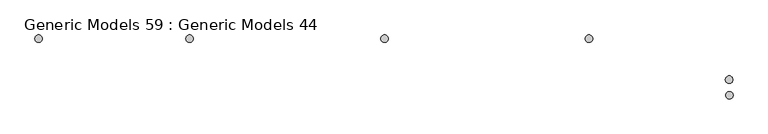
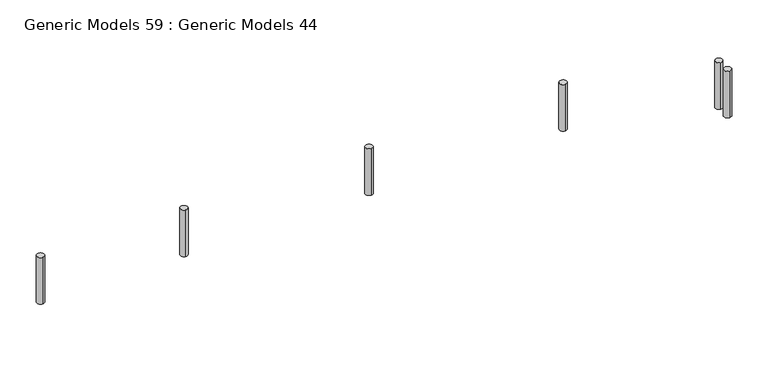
"""IFC4 building model written with IfcOpenShell, lengths in millimetres: proxy geometry, Generic Models 59 : Generic Models 44."""

from ifc_helpers import new_model, si_unit, point, frame, frame_2d, origin, place, context, project, spatial, circle_curve, trimmed, segment, composite_curve, outline, extrude, source, transform, mapped, element, save


def generic_models_59_generic_models_44_6771ed51(model_context):
    return source(origin(), model_context, "Body", "SweptSolid", [
        extrude(outline(composite_curve([segment(trimmed(circle_curve(frame_2d((-42808.6557962, 11742.069733)), 120.0), [point((-42808.6557962, 11862.069733))], [point((-42808.6557962, 11622.069733))], False, "CARTESIAN"), True, "CONTINUOUS"), segment(trimmed(circle_curve(frame_2d((-42808.6557962, 11742.069733)), 120.0), [point((-42808.6557962, 11622.069733))], [point((-42808.6557962, 11862.069733))], False, "CARTESIAN"), True, "CONTINUOUS")], self_intersect=False)), frame((0.0, 0.0, 42695.9057084), z_axis=(0.0, 0.0, 1.0), x_axis=(1.0, 0.0, 0.0)), (0.0, 0.0, 1.0), 1647.7307901),
        extrude(outline(composite_curve([segment(trimmed(circle_curve(frame_2d((-42812.1138162, 12238.611713)), 120.0), [point((-42812.1138162, 12358.611713))], [point((-42812.1138162, 12118.611713))], False, "CARTESIAN"), True, "CONTINUOUS"), segment(trimmed(circle_curve(frame_2d((-42812.1138162, 12238.611713)), 120.0), [point((-42812.1138162, 12118.611713))], [point((-42812.1138162, 12358.611713))], False, "CARTESIAN"), True, "CONTINUOUS")], self_intersect=False)), frame((0.0, 0.0, 42695.9057084), z_axis=(0.0, 0.0, 1.0), x_axis=(1.0, 0.0, 0.0)), (0.0, 0.0, 1.0), 1647.7307901),
        extrude(outline(composite_curve([segment(trimmed(circle_curve(frame_2d((-64773.4698957, 13542.0069521)), 120.0), [point((-64773.4698957, 13662.0069521))], [point((-64773.4698957, 13422.0069521))], False, "CARTESIAN"), True, "CONTINUOUS"), segment(trimmed(circle_curve(frame_2d((-64773.4698957, 13542.0069521)), 120.0), [point((-64773.4698957, 13422.0069521))], [point((-64773.4698957, 13662.0069521))], False, "CARTESIAN"), True, "CONTINUOUS")], self_intersect=False)), frame((0.0, 0.0, 42695.9057084), z_axis=(0.0, 0.0, 1.0), x_axis=(1.0, 0.0, 0.0)), (0.0, 0.0, 1.0), 1647.7307901),
        extrude(outline(composite_curve([segment(trimmed(circle_curve(frame_2d((-59973.4698957, 13542.0069521)), 120.0), [point((-59973.4698957, 13662.0069521))], [point((-59973.4698957, 13422.0069521))], False, "CARTESIAN"), True, "CONTINUOUS"), segment(trimmed(circle_curve(frame_2d((-59973.4698957, 13542.0069521)), 120.0), [point((-59973.4698957, 13422.0069521))], [point((-59973.4698957, 13662.0069521))], False, "CARTESIAN"), True, "CONTINUOUS")], self_intersect=False)), frame((0.0, 0.0, 42695.9057084), z_axis=(0.0, 0.0, 1.0), x_axis=(1.0, 0.0, 0.0)), (0.0, 0.0, 1.0), 1647.7307901),
        extrude(outline(composite_curve([segment(trimmed(circle_curve(frame_2d((-53773.4698957, 13542.0069521)), 120.0), [point((-53773.4698957, 13662.0069521))], [point((-53773.4698957, 13422.0069521))], False, "CARTESIAN"), True, "CONTINUOUS"), segment(trimmed(circle_curve(frame_2d((-53773.4698957, 13542.0069521)), 120.0), [point((-53773.4698957, 13422.0069521))], [point((-53773.4698957, 13662.0069521))], False, "CARTESIAN"), True, "CONTINUOUS")], self_intersect=False)), frame((0.0, 0.0, 42695.9057084), z_axis=(0.0, 0.0, 1.0), x_axis=(1.0, 0.0, 0.0)), (0.0, 0.0, 1.0), 1647.7307901),
        extrude(outline(composite_curve([segment(trimmed(circle_curve(frame_2d((-47273.4698957, 13542.0069521)), 120.0), [point((-47273.4698957, 13662.0069521))], [point((-47273.4698957, 13422.0069521))], False, "CARTESIAN"), True, "CONTINUOUS"), segment(trimmed(circle_curve(frame_2d((-47273.4698957, 13542.0069521)), 120.0), [point((-47273.4698957, 13422.0069521))], [point((-47273.4698957, 13662.0069521))], False, "CARTESIAN"), True, "CONTINUOUS")], self_intersect=False)), frame((0.0, 0.0, 42695.9057084), z_axis=(0.0, 0.0, 1.0), x_axis=(1.0, 0.0, 0.0)), (0.0, 0.0, 1.0), 1647.7307901),
    ])


if __name__ == "__main__":
    model = new_model("IFC4")
    model_context = context("Model", 3, world=origin())
    ifc_project = project(units=[si_unit("LENGTHUNIT", "METRE", prefix="MILLI")], contexts=[model_context])
    site = spatial("IfcSite", under=ifc_project)
    building = spatial("IfcBuilding", under=site)
    placement = place(None, origin())
    generic_models_59_generic_models_44_shape = generic_models_59_generic_models_44_6771ed51(model_context)
    element("IfcBuildingElementProxy", 1, Name="Generic Models 59 : Generic Models 44", ObjectType="Generic Models 59 : Generic Models 44", at=placement, inside=building, context=model_context, shape_type="MappedRepresentation", body=[
        mapped(generic_models_59_generic_models_44_shape, transform((0.0, 0.0, 0.0), x_axis=(1.0, 0.0, 0.0), y_axis=(0.0, 1.0, 0.0), z_axis=(0.0, 0.0, 1.0))),
    ])
    save(model, "model.ifc")
